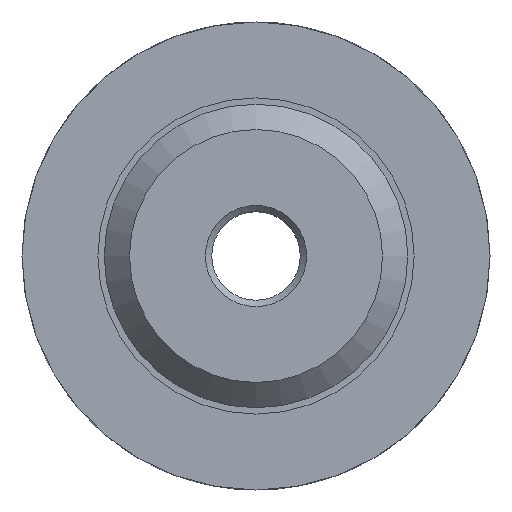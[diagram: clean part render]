
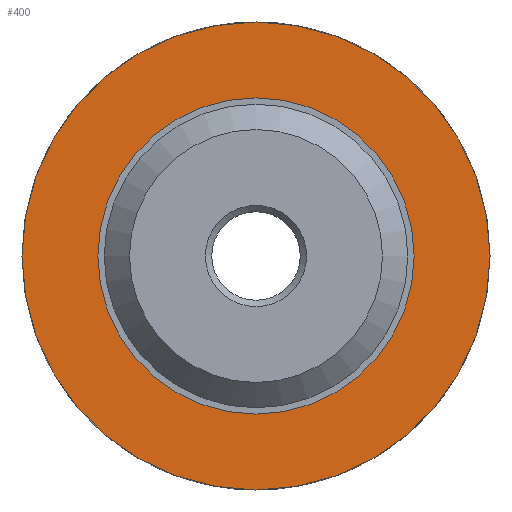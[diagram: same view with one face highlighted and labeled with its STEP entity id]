
A CAD part, front view. The second image highlights one B-rep face of the part: STEP entity #400.
In plain terms, the highlighted planar face has unit normal (0, -1, 0).
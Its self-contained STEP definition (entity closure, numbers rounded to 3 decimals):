
#21=FACE_BOUND('',#103,.T.);
#31=PLANE('',#474);
#73=FACE_OUTER_BOUND('',#102,.T.);
#102=EDGE_LOOP('',(#354));
#103=EDGE_LOOP('',(#355));
#163=CIRCLE('',#454,18.5);
#176=CIRCLE('',#475,12.5);
#202=VERTEX_POINT('',#683);
#211=VERTEX_POINT('',#717);
#243=EDGE_CURVE('',#202,#202,#163,.T.);
#260=EDGE_CURVE('',#211,#211,#176,.T.);
#354=ORIENTED_EDGE('',*,*,#243,.T.);
#355=ORIENTED_EDGE('',*,*,#260,.F.);
#400=ADVANCED_FACE('',(#73,#21),#31,.T.);
#454=AXIS2_PLACEMENT_3D('',#684,#552,#553);
#474=AXIS2_PLACEMENT_3D('',#716,#596,#597);
#475=AXIS2_PLACEMENT_3D('',#718,#598,#599);
#552=DIRECTION('center_axis',(0.,-1.,0.));
#553=DIRECTION('ref_axis',(1.,0.,0.));
#596=DIRECTION('center_axis',(0.,-1.,0.));
#597=DIRECTION('ref_axis',(0.,0.,-1.));
#598=DIRECTION('center_axis',(0.,-1.,0.));
#599=DIRECTION('ref_axis',(1.,0.,0.));
#683=CARTESIAN_POINT('',(-18.5,40.,0.));
#684=CARTESIAN_POINT('Origin',(0.,40.,0.));
#716=CARTESIAN_POINT('Origin',(12.5,40.,0.));
#717=CARTESIAN_POINT('',(-12.5,40.,0.));
#718=CARTESIAN_POINT('Origin',(0.,40.,0.));
